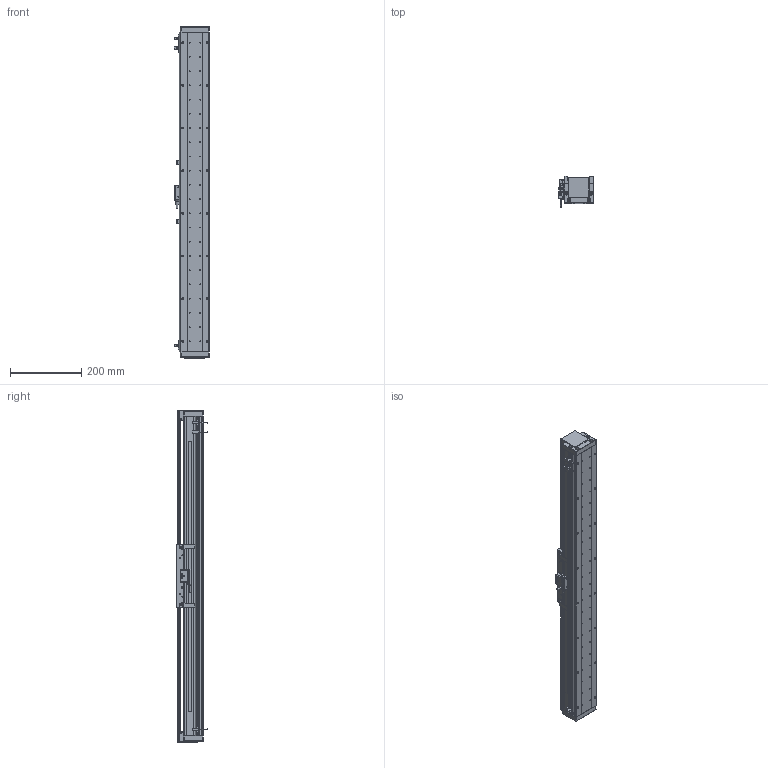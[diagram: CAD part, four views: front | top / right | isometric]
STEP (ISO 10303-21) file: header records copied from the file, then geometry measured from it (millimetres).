
FILE_DESCRIPTION (( 'STEP AP203' ), '1' );
FILE_NAME ('DA-A82-B2-T680-C010-0.2 眻盄萇儂.STEP', '2025-08-13T03:06:32', ( '' ), ( '' ), 'SwSTEP 2.0', 'SolidWorks 2019', '' );
FILE_SCHEMA (( 'CONFIG_CONTROL_DESIGN' ));
Length unit declared in the file: millimetre
Products named in the file (21): 葩璃 鞠褒情蹟譫 M3^DA-A82-B2-T-C010-0.2; DA-A60-GYP-DMT-00 光电感应片^DA-A82-B2-T-C010-0.2(默认); 复件 DA95-B2-GT-00 滑块钢轨^AU82-M-00 一体化滑动台板; AU82-M-00 珨极趙賑雄怢啣; 复件 纯铜油杯 6x6mm^AU82-M 滚珠滑台; 葩璃 PM-T45^DA-A82-B2-T-C010-0.2; IU-AU82-L-00 菁釱(L900); 葩璃 DA82-B2-DP-00 結え^AU82-M 幗紩賑怢; DA-A82-B2-T680-C010-0.2 眻盄萇儂; 复件 复件 DA82-XJ-00 缓冲橡胶^DA-A82-B2-T-C010-0.2; 葩璃 DMT-010 1米m 0.2M^DA-A82-B2-T-C010-0.2; 葩璃 DA82-T-002-00 裔啣^DA-A82-B2-T-C010-0.2; 葩璃 XD-U-02  棠掑喜^DA-A82-B2-T-C010-0.2; 葩璃 DA60-DMT-DTJ-00 黍杅芛盓殤^DA-A82-B2-T-C010-0.2; ｸｴｼ BKM02-W040-C1-TP-DA-3.0 ﾖｱﾏﾟｵ扈巐ｯﾗﾓ^DA-A82-B2-T-C010-0.2; AU82-M 幗紩賑怢; AU82-HT-M-00 賑雄怢啣; IU-AU82-L 菁釱絳寢; 葩璃 BKM01-W040-TRL^DA-A82-B2-T-C010-0.2; 复件 DA95-GT-T-00 底座钢轨^IU-AU82-L 底座导轨; 复件 DA82-DG-H-N-00 端盖^DA-A82-B2-T-C010-0.2(默认_按加工_)
Assembly tree (36 placements, depth 4):
  DA-A82-B2-T680-C010-0.2 眻盄萇儂
    IU-AU82-L 菁釱絳寢
      IU-AU82-L-00 菁釱(L900)
      复件 DA95-GT-T-00 底座钢轨^IU-AU82-L 底座导轨  x2
    AU82-M 幗紩賑怢
      AU82-M-00 珨极趙賑雄怢啣
        AU82-HT-M-00 賑雄怢啣
        复件 DA95-B2-GT-00 滑块钢轨^AU82-M-00 一体化滑动台板  x4
      葩璃 DA82-B2-DP-00 結え^AU82-M 幗紩賑怢  x2
      复件 纯铜油杯 6x6mm^AU82-M 滚珠滑台  x2
    葩璃 DA60-DMT-DTJ-00 黍杅芛盓殤^DA-A82-B2-T-C010-0.2
    葩璃 DMT-010 1米m 0.2M^DA-A82-B2-T-C010-0.2
    DA-A60-GYP-DMT-00 光电感应片^DA-A82-B2-T-C010-0.2(默认)  x2
    ｸｴｼ BKM02-W040-C1-TP-DA-3.0 ﾖｱﾏﾟｵ扈巐ｯﾗﾓ^DA-A82-B2-T-C010-0.2
    复件 复件 DA82-XJ-00 缓冲橡胶^DA-A82-B2-T-C010-0.2  x2
    复件 DA82-DG-H-N-00 端盖^DA-A82-B2-T-C010-0.2(默认_按加工_)  x2
    葩璃 DA82-T-002-00 裔啣^DA-A82-B2-T-C010-0.2
    葩璃 BKM01-W040-TRL^DA-A82-B2-T-C010-0.2
    葩璃 PM-T45^DA-A82-B2-T-C010-0.2  x3
    葩璃 XD-U-02  棠掑喜^DA-A82-B2-T-C010-0.2
    葩璃 鞠褒情蹟譫 M3^DA-A82-B2-T-C010-0.2  x6
Bounding box: 98.95 x 87.2 x 934 mm (x, y, z)
Volume: 3063996.3 mm3; surface area: 878729.3 mm2
Topology: 40 solids, 64 shells, 2059 faces, 5386 edges, 3356 vertices
Faces by surface type: cylinder 947, plane 804, cone 252, torus 38, bspline 12, sphere 6
Entity records: 54845 total; most frequent: CARTESIAN_POINT 12137, DIRECTION 8614, ORIENTED_EDGE 8094, EDGE_CURVE 4047, AXIS2_PLACEMENT_3D 3256, VERTEX_POINT 2623, VECTOR 2102, LINE 2102
